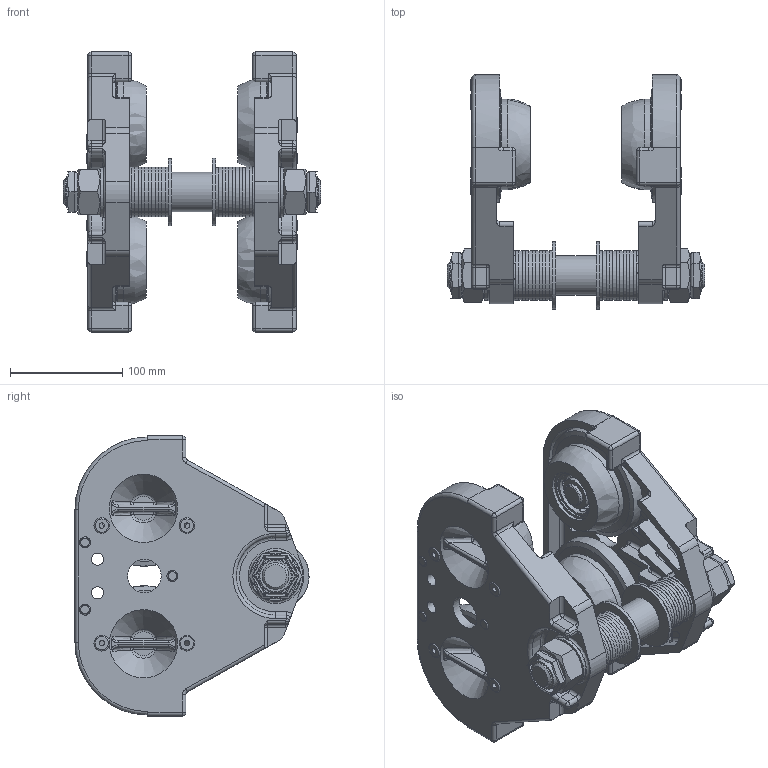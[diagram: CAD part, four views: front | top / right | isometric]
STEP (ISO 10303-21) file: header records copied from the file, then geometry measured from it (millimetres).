
FILE_DESCRIPTION((''),'2;1');
FILE_NAME('E:\3-D light\9248_9266_M.stp','2009-02-03T11:04:23',('gispen'),(''),'Autodesk Inventor 10','Autodesk Inventor 10','');
FILE_SCHEMA(('AUTOMOTIVE_DESIGN { 1 0 10303 214 1 1 1 1 }'));
Length unit declared in the file: millimetre
Products named in the file (8): EHF150 kompl; Tragbolzen Nr; 9248_1002_M2; 9248_1008_M; 9031_1577; DIN 125-1  A A 25; DIN 6915  M24; 9248_9264_M
Assembly tree (34 placements, depth 3):
  EHF150 kompl
    Tragbolzen Nr
      9248_1002_M2
      9248_1008_M  x24
      9031_1577  x2
      DIN 125-1  A A 25  x2
      DIN 6915  M24  x2
    9248_9264_M  x2
Bounding box: 230 x 209 x 250 mm (x, y, z)
Volume: 279175.7 mm3; surface area: 508001.2 mm2
Topology: 31 solids, 33 shells, 1357 faces, 3195 edges, 1896 vertices
Faces by surface type: cylinder 487, plane 392, bspline 350, torus 54, sphere 44, cone 30
Full cylindrical faces by diameter (mm): 2.5 x4, 11 x4, 20 x4, 24 x4, 24.5 x24, 25 x2, 28 x2, 28.802 x2, 30 x2, 35 x1, 38.198 x2, 44 x24, 47 x6, 49.5 x4, 60 x2, 80.944 x2
Entity records: 36755 total; most frequent: CARTESIAN_POINT 22716, DIRECTION 2932, ORIENTED_EDGE 2732, EDGE_CURVE 1366, AXIS2_PLACEMENT_3D 1214, VERTEX_POINT 869, EDGE_LOOP 811, FACE_OUTER_BOUND 632
